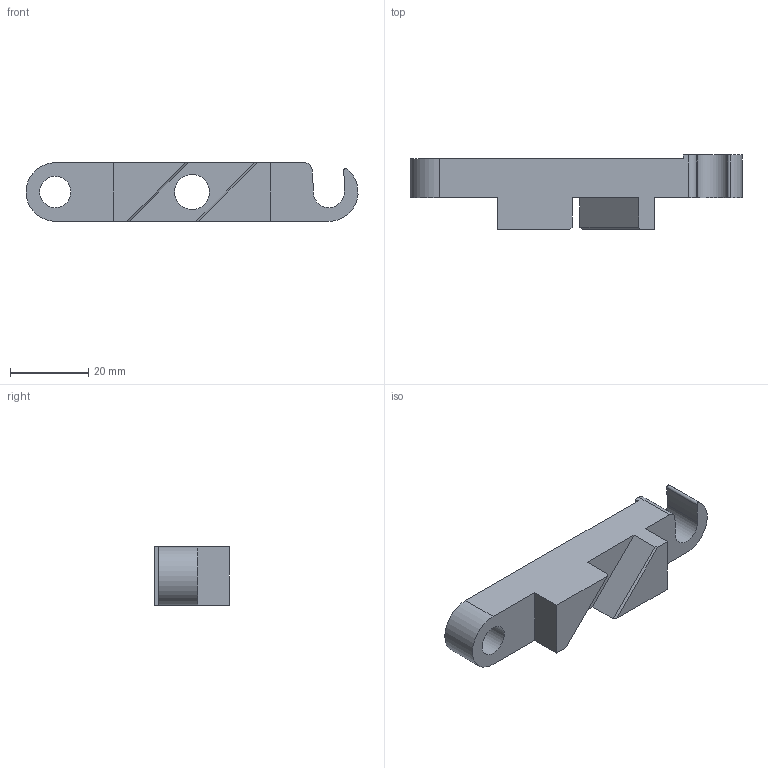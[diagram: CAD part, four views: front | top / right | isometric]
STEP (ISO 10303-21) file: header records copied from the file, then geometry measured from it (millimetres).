
FILE_DESCRIPTION(/* description */ (''),/* implementation_level */ '2;1');
FILE_NAME(/* name */ '',/* time_stamp */ '2025-02-05T13:50:57+09:00',/* author */ ('jhkim'),/* organization */ (''),/* preprocessor_version */ 'ST-DEVELOPER v20',/* originating_system */ 'Autodesk Inventor 2025',/* authorisation */ '');
FILE_SCHEMA (('AUTOMOTIVE_DESIGN { 1 0 10303 214 3 1 1 }'));
Length unit declared in the file: millimetre
Products named in the file (1): 서포터
Bounding box: 84.97 x 19 x 15 mm (x, y, z)
Volume: 13163.5 mm3; surface area: 5632.3 mm2
Topology: 1 solids, 1 shells, 25 faces, 69 edges, 46 vertices
Faces by surface type: plane 16, cylinder 9
Full cylindrical faces by diameter (mm): 8 x1, 8.917 x1
Entity records: 852 total; most frequent: CARTESIAN_POINT 141, DIRECTION 139, ORIENTED_EDGE 138, EDGE_CURVE 69, LINE 51, VECTOR 51, VERTEX_POINT 46, AXIS2_PLACEMENT_3D 44
